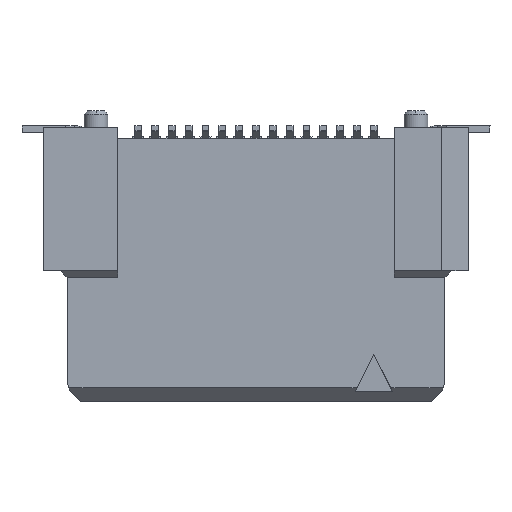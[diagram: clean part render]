
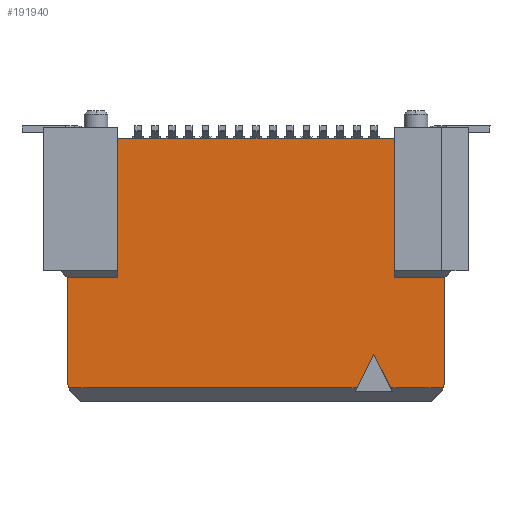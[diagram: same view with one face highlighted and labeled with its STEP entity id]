
A CAD part, front view. The second image highlights one B-rep face of the part: STEP entity #191940.
In plain terms, the highlighted planar face has unit normal (0, -1, 0).
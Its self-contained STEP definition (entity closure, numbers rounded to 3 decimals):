
#4230=CARTESIAN_POINT('',(23.522,1.44,
10.32));
#4240=VERTEX_POINT('',#4230);
#5030=CARTESIAN_POINT('',(23.522,1.44,
6.19));
#5040=VERTEX_POINT('',#5030);
#5070=CARTESIAN_POINT('',(23.522,1.44,
8.755));
#5080=DIRECTION('',(0.,0.,
1.));
#5090=VECTOR('',#5080,1.);
#5100=LINE('',#5070,#5090);
#5110=EDGE_CURVE('',#5040,#4240,#5100,.T.);
#8710=CARTESIAN_POINT('',(25.022,1.44,
6.19));
#8720=VERTEX_POINT('',#8710);
#8750=CARTESIAN_POINT('',(24.372,1.44,
6.19));
#8760=DIRECTION('',(-1.,0.,0.));
#8770=VECTOR('',#8760,1.);
#8780=LINE('',#8750,#8770);
#8790=EDGE_CURVE('',#8720,#5040,#8780,.T.);
#16560=CARTESIAN_POINT('',(25.022,1.44,
3.06));
#16570=VERTEX_POINT('',#16560);
#16600=CARTESIAN_POINT('',(25.022,1.44,
10.39));
#16610=DIRECTION('',(0.,0.,
1.));
#16620=VECTOR('',#16610,1.);
#16630=LINE('',#16600,#16620);
#16640=EDGE_CURVE('',#16570,#8720,#16630,.T.);
#23010=CARTESIAN_POINT('',(24.974,1.44,
2.91));
#23020=VERTEX_POINT('',#23010);
#23050=CARTESIAN_POINT('',(27.371,1.44,
10.39));
#23060=DIRECTION('',(-0.305,0.,
-0.952));
#23070=VECTOR('',#23060,1.);
#23080=LINE('',#23050,#23070);
#23090=EDGE_CURVE('',#16570,#23020,#23080,.T.);
#25990=CARTESIAN_POINT('',(22.912,1.44,
3.91));
#26000=VERTEX_POINT('',#25990);
#26030=CARTESIAN_POINT('',(20.49,1.44,
8.755));
#26040=DIRECTION('',(-0.447,0.,
0.894));
#26050=VECTOR('',#26040,1.);
#26060=LINE('',#26030,#26050);
#26070=CARTESIAN_POINT('',(23.412,1.44,
2.91));
#26080=VERTEX_POINT('',#26070);
#26090=EDGE_CURVE('',#26080,#26000,#26060,.T.);
#47090=CARTESIAN_POINT('',(22.412,1.44,
2.91));
#47100=VERTEX_POINT('',#47090);
#47130=CARTESIAN_POINT('',(25.335,1.44,
8.755));
#47140=DIRECTION('',(-0.447,0.,
-0.894));
#47150=VECTOR('',#47140,1.);
#47160=LINE('',#47130,#47150);
#47170=EDGE_CURVE('',#26000,#47100,#47160,.T.);
#182400=CARTESIAN_POINT('',(-2.348,1.44,
2.91));
#182410=DIRECTION('',(1.,0.,0.));
#182420=VECTOR('',#182410,1.);
#182430=LINE('',#182400,#182420);
#182440=CARTESIAN_POINT('',(23.672,1.44,
2.91));
#182450=VERTEX_POINT('',#182440);
#182460=EDGE_CURVE('',#26080,#182450,#182430,.T.);
#182480=CARTESIAN_POINT('',(16.867,1.44,
2.91));
#182490=DIRECTION('',(-1.,0.,0.));
#182500=VECTOR('',#182490,1.);
#182510=LINE('',#182480,#182500);
#182520=EDGE_CURVE('',#23020,#182450,#182510,.T.);
#182700=CARTESIAN_POINT('',(13.851,1.44,
2.91));
#182710=VERTEX_POINT('',#182700);
#182740=CARTESIAN_POINT('',(21.958,1.44,
2.91));
#182750=DIRECTION('',(1.,0.,0.));
#182760=VECTOR('',#182750,1.);
#182770=LINE('',#182740,#182760);
#182780=CARTESIAN_POINT('',(15.152,1.44,
2.91));
#182790=VERTEX_POINT('',#182780);
#182800=EDGE_CURVE('',#182710,#182790,#182770,.T.);
#182820=CARTESIAN_POINT('',(6.152,1.44,
2.91));
#182830=DIRECTION('',(1.,0.,0.));
#182840=VECTOR('',#182830,1.);
#182850=LINE('',#182820,#182840);
#182860=EDGE_CURVE('',#182790,#47100,#182850,.T.);
#191070=CARTESIAN_POINT('',(7.172,1.44,
2.91));
#191080=DIRECTION('',(0.,1.,
0.));
#191090=DIRECTION('',(0.,0.,
1.));
#191100=AXIS2_PLACEMENT_3D('',#191070,#191080,#191090);
#191110=PLANE('',#191100);
#191120=ORIENTED_EDGE('',*,*,#182800,.T.);
#191130=CARTESIAN_POINT('',(11.454,1.44,
10.39));
#191140=DIRECTION('',(0.305,0.,
-0.952));
#191150=VECTOR('',#191140,1.);
#191160=LINE('',#191130,#191150);
#191170=CARTESIAN_POINT('',(13.802,1.44,
3.06));
#191180=VERTEX_POINT('',#191170);
#191190=EDGE_CURVE('',#191180,#182710,#191160,.T.);
#191200=ORIENTED_EDGE('',*,*,#191190,.T.);
#191210=CARTESIAN_POINT('',(13.802,1.44,
10.39));
#191220=DIRECTION('',(0.,0.,
1.));
#191230=VECTOR('',#191220,1.);
#191240=LINE('',#191210,#191230);
#191250=CARTESIAN_POINT('',(13.802,1.44,
6.19));
#191260=VERTEX_POINT('',#191250);
#191270=EDGE_CURVE('',#191180,#191260,#191240,.T.);
#191280=ORIENTED_EDGE('',*,*,#191270,.F.);
#191290=CARTESIAN_POINT('',(14.452,1.44,
6.19));
#191300=DIRECTION('',(1.,0.,0.));
#191310=VECTOR('',#191300,1.);
#191320=LINE('',#191290,#191310);
#191330=CARTESIAN_POINT('',(15.302,1.44,
6.19));
#191340=VERTEX_POINT('',#191330);
#191350=EDGE_CURVE('',#191260,#191340,#191320,.T.);
#191360=ORIENTED_EDGE('',*,*,#191350,.F.);
#191370=CARTESIAN_POINT('',(15.302,1.44,
8.755));
#191380=DIRECTION('',(0.,0.,
1.));
#191390=VECTOR('',#191380,1.);
#191400=LINE('',#191370,#191390);
#191410=CARTESIAN_POINT('',(15.302,1.44,
10.32));
#191420=VERTEX_POINT('',#191410);
#191430=EDGE_CURVE('',#191340,#191420,#191400,.T.);
#191440=ORIENTED_EDGE('',*,*,#191430,.F.);
#191450=CARTESIAN_POINT('',(15.152,1.44,
10.32));
#191460=DIRECTION('',(1.,0.,0.));
#191470=VECTOR('',#191460,1.);
#191480=LINE('',#191450,#191470);
#191490=CARTESIAN_POINT('',(15.662,1.44,
10.32));
#191500=VERTEX_POINT('',#191490);
#191510=EDGE_CURVE('',#191420,#191500,#191480,.T.);
#191520=ORIENTED_EDGE('',*,*,#191510,.F.);
#191530=CARTESIAN_POINT('',(-2.588,1.44,
10.32));
#191540=DIRECTION('',(1.,0.,0.));
#191550=VECTOR('',#191540,1.);
#191560=LINE('',#191530,#191550);
#191570=CARTESIAN_POINT('',(19.162,1.44,
10.32));
#191580=VERTEX_POINT('',#191570);
#191590=EDGE_CURVE('',#191500,#191580,#191560,.T.);
#191600=ORIENTED_EDGE('',*,*,#191590,.F.);
#191610=CARTESIAN_POINT('',(-6.5,1.44,
10.32));
#191620=DIRECTION('',(1.,0.,0.));
#191630=VECTOR('',#191620,1.);
#191640=LINE('',#191610,#191630);
#191650=CARTESIAN_POINT('',(19.412,1.44,
10.32));
#191660=VERTEX_POINT('',#191650);
#191670=EDGE_CURVE('',#191580,#191660,#191640,.T.);
#191680=ORIENTED_EDGE('',*,*,#191670,.F.);
#191690=CARTESIAN_POINT('',(-2.588,1.44,
10.32));
#191700=DIRECTION('',(1.,0.,0.));
#191710=VECTOR('',#191700,1.);
#191720=LINE('',#191690,#191710);
#191730=CARTESIAN_POINT('',(23.162,1.44,
10.32));
#191740=VERTEX_POINT('',#191730);
#191750=EDGE_CURVE('',#191660,#191740,#191720,.T.);
#191760=ORIENTED_EDGE('',*,*,#191750,.F.);
#191770=CARTESIAN_POINT('',(23.672,1.44,
10.32));
#191780=DIRECTION('',(-1.,0.,0.));
#191790=VECTOR('',#191780,1.);
#191800=LINE('',#191770,#191790);
#191810=EDGE_CURVE('',#4240,#191740,#191800,.T.);
#191820=ORIENTED_EDGE('',*,*,#191810,.T.);
#191830=ORIENTED_EDGE('',*,*,#5110,.T.);
#191840=ORIENTED_EDGE('',*,*,#8790,.T.);
#191850=ORIENTED_EDGE('',*,*,#16640,.T.);
#191860=ORIENTED_EDGE('',*,*,#23090,.F.);
#191870=ORIENTED_EDGE('',*,*,#182520,.F.);
#191880=ORIENTED_EDGE('',*,*,#182460,.T.);
#191890=ORIENTED_EDGE('',*,*,#26090,.F.);
#191900=ORIENTED_EDGE('',*,*,#47170,.F.);
#191910=ORIENTED_EDGE('',*,*,#182860,.T.);
#191920=EDGE_LOOP('',(#191910,#191900,#191890,#191880,#191870,#191860,
#191850,#191840,#191830,#191820,#191760,#191680,#191600,#191520,#191440,
#191360,#191280,#191200,#191120));
#191930=FACE_OUTER_BOUND('',#191920,.T.);
#191940=ADVANCED_FACE('',(#191930),#191110,.F.);
